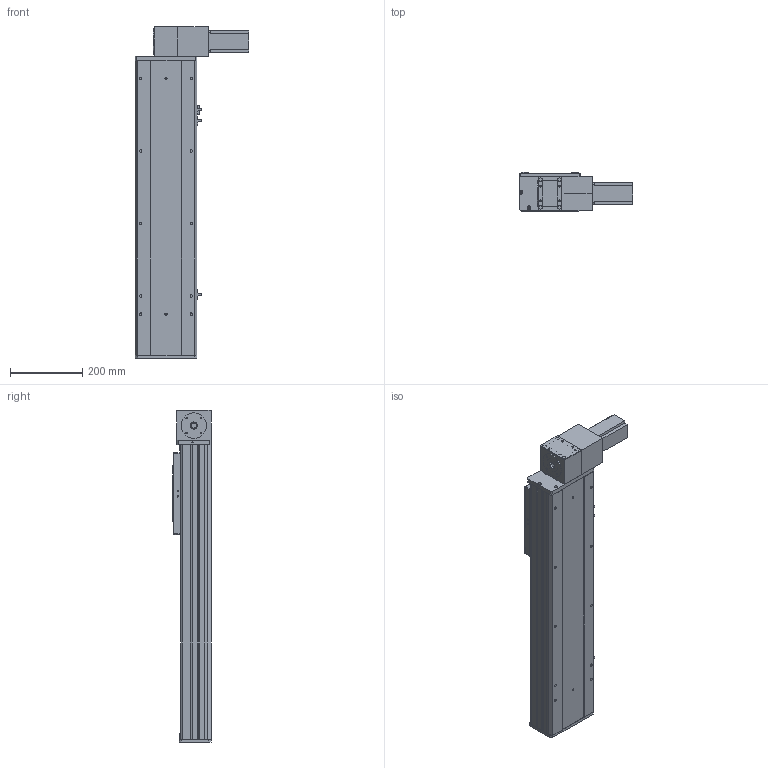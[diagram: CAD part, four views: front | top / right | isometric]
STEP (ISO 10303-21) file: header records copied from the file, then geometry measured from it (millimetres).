
FILE_DESCRIPTION (( 'STEP AP203' ), '1' );
FILE_NAME ('Y170CB-D105-S500-BD-P400W.STEP', '2020-02-20T08:18:41', ( '微软用户' ), ( '微软中国' ), 'SwSTEP 2.0', 'SolidWorks 2017', '' );
FILE_SCHEMA (( 'CONFIG_CONTROL_DESIGN' ));
Length unit declared in the file: millimetre
Products named in the file (16): 0B薊粣ん眊-400W--; 70CB--耜裔; Y170CB-D105-S500-BD-P400W; 70C-雄赽釱-奻-; 0C--雄赽釱俋欶-170; B-源倛裔啣; 70CB-詩湍--; san松下电机400不带刹车----; Y100-135俋离換覜ん--; 70CB-掛极-; Y170CB-陔俋离換覜結え---; --70CB --喘謫眊楊擘啣-; Y1埴倛裔; 70CB-耜裔啣-; 70B喘謫眊----; 70C--詩湍揤踡え-
Assembly tree (19 placements, depth 2):
  Y170CB-D105-S500-BD-P400W
    B-源倛裔啣
    san松下电机400不带刹车----
    70CB-掛极-
    --70CB --喘謫眊楊擘啣-
    70CB-耜裔啣-  x2
    70C--詩湍揤踡え-  x2
    70CB--耜裔
    70C-雄赽釱-奻-
    0C--雄赽釱俋欶-170
    70CB-詩湍--
    Y100-135俋离換覜ん--  x3
    Y170CB-陔俋离換覜結え---
    Y1埴倛裔
    70B喘謫眊----
    0B薊粣ん眊-400W--
Bounding box: 313.5 x 107 x 916 mm (x, y, z)
Volume: 4857561.7 mm3; surface area: 1599265.3 mm2
Topology: 19 solids, 19 shells, 904 faces, 2378 edges, 1576 vertices
Faces by surface type: cylinder 458, plane 422, cone 24
Entity records: 28135 total; most frequent: CARTESIAN_POINT 5206, DIRECTION 4575, ORIENTED_EDGE 4238, EDGE_CURVE 2119, AXIS2_PLACEMENT_3D 1681, VERTEX_POINT 1406, VECTOR 1213, LINE 1213
